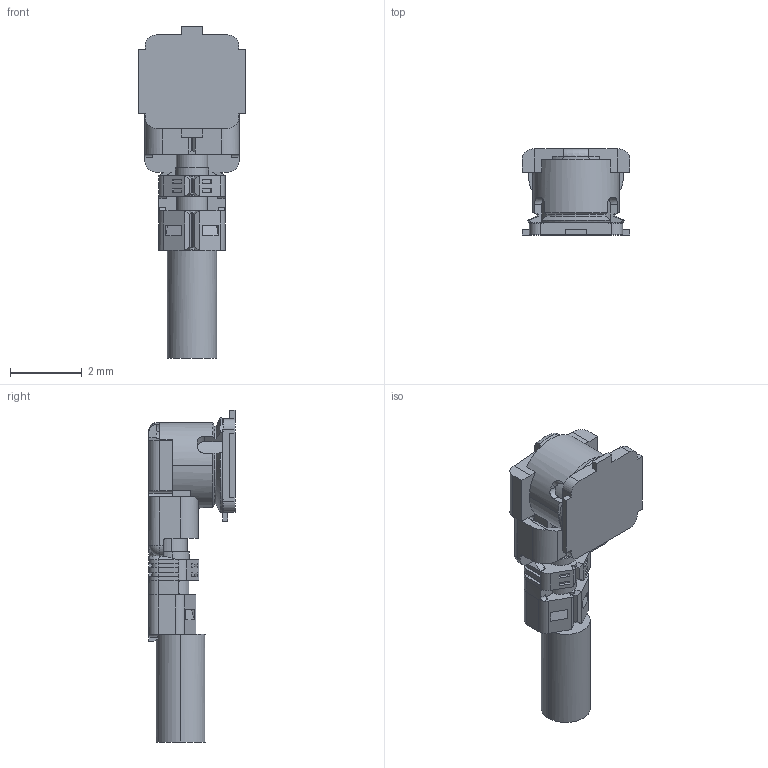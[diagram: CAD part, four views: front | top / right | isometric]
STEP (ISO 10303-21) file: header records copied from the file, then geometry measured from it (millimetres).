
FILE_DESCRIPTION (( 'STEP AP203' ), '1' );
FILE_NAME ('20279-001E-01C+20351-1xxR-37C MATING R9R7 STEP ALL.STEP', '2018-08-06T02:54:55', ( '' ), ( '' ), 'SwSTEP 2.0', 'SolidWorks 2017', '' );
FILE_SCHEMA (( 'CONFIG_CONTROL_DESIGN' ));
Length unit declared in the file: millimetre
Products named in the file (1): 20279-001E-01C+20351-1xxR-37C MATING R9R7 STEP ALL
Bounding box: 3 x 2.4 x 9.25 mm (x, y, z)
Volume: 24.9 mm3; surface area: 84.7 mm2
Topology: 1 solids, 1 shells, 380 faces, 1028 edges, 656 vertices
Faces by surface type: plane 234, cylinder 82, bspline 41, cone 16, torus 5, sphere 2
Entity records: 13182 total; most frequent: CARTESIAN_POINT 3816, ORIENTED_EDGE 2048, DIRECTION 1769, EDGE_CURVE 1024, LINE 697, VECTOR 697, VERTEX_POINT 656, AXIS2_PLACEMENT_3D 536
